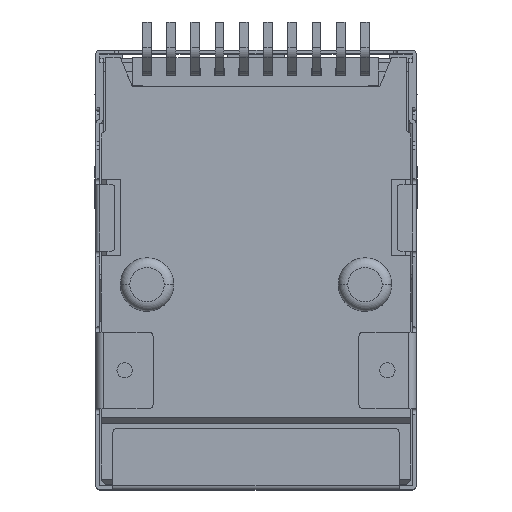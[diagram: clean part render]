
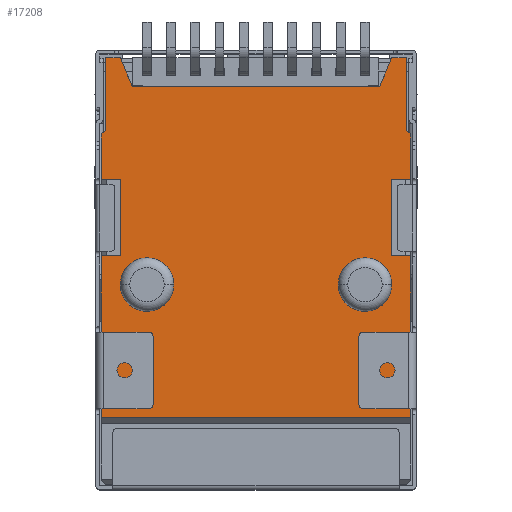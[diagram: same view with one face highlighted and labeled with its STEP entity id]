
A CAD part, top view. The second image highlights one B-rep face of the part: STEP entity #17208.
In plain terms, the highlighted planar face has unit normal (0, 0, 1).
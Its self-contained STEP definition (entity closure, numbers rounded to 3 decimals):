
#101=DIRECTION('',(-0.781,0.625,0.));
#102=VECTOR('',#101,0.32);
#103=CARTESIAN_POINT('',(7.875,18.4,-3.6));
#104=LINE('',#103,#102);
#105=DIRECTION('',(-0.781,-0.625,0.));
#106=VECTOR('',#105,0.32);
#107=CARTESIAN_POINT('',(-8.125,18.6,-3.6));
#108=LINE('',#107,#106);
#109=DIRECTION('',(0.,-1.,0.));
#110=VECTOR('',#109,3.8);
#111=CARTESIAN_POINT('',(-8.125,22.4,-3.6));
#112=LINE('',#111,#110);
#113=DIRECTION('',(-0.392,0.92,0.));
#114=VECTOR('',#113,1.631);
#115=CARTESIAN_POINT('',(-6.735,20.9,-3.6));
#116=LINE('',#115,#114);
#117=DIRECTION('',(-0.392,-0.92,0.));
#118=VECTOR('',#117,1.631);
#119=CARTESIAN_POINT('',(6.875,22.4,-3.6));
#120=LINE('',#119,#118);
#121=CARTESIAN_POINT('',(-5.965,10.5,-3.6));
#122=DIRECTION('',(0.,0.,-1.));
#123=DIRECTION('',(-1.,0.,0.));
#124=AXIS2_PLACEMENT_3D('',#121,#122,#123);
#126=CARTESIAN_POINT('',(-5.965,10.5,-3.6));
#127=DIRECTION('',(0.,0.,-1.));
#128=DIRECTION('',(1.,0.,0.));
#129=AXIS2_PLACEMENT_3D('',#126,#127,#128);
#131=CARTESIAN_POINT('',(5.465,10.5,-3.6));
#132=DIRECTION('',(0.,0.,-1.));
#133=DIRECTION('',(-1.,0.,0.));
#134=AXIS2_PLACEMENT_3D('',#131,#132,#133);
#136=CARTESIAN_POINT('',(5.465,10.5,-3.6));
#137=DIRECTION('',(0.,0.,-1.));
#138=DIRECTION('',(1.,0.,0.));
#139=AXIS2_PLACEMENT_3D('',#136,#137,#138);
#141=DIRECTION('',(0.,1.,0.));
#142=VECTOR('',#141,3.8);
#143=CARTESIAN_POINT('',(7.625,18.6,-3.6));
#144=LINE('',#143,#142);
#189=DIRECTION('',(0.,-1.,0.));
#190=VECTOR('',#189,2.4);
#191=CARTESIAN_POINT('',(7.875,18.4,-3.6));
#192=LINE('',#191,#190);
#205=DIRECTION('',(0.,-1.,0.));
#206=VECTOR('',#205,8.45);
#207=CARTESIAN_POINT('',(7.875,12.,-3.6));
#208=LINE('',#207,#206);
#221=DIRECTION('',(-1.,0.,0.));
#222=VECTOR('',#221,1.);
#223=CARTESIAN_POINT('',(7.875,12.,-3.6));
#224=LINE('',#223,#222);
#241=DIRECTION('',(0.,1.,0.));
#242=VECTOR('',#241,4.);
#243=CARTESIAN_POINT('',(6.875,12.,-3.6));
#244=LINE('',#243,#242);
#261=DIRECTION('',(-1.,0.,0.));
#262=VECTOR('',#261,1.);
#263=CARTESIAN_POINT('',(7.875,16.,-3.6));
#264=LINE('',#263,#262);
#297=DIRECTION('',(0.,1.,0.));
#298=VECTOR('',#297,8.45);
#299=CARTESIAN_POINT('',(-8.375,3.55,-3.6));
#300=LINE('',#299,#298);
#321=DIRECTION('',(0.,1.,0.));
#322=VECTOR('',#321,2.4);
#323=CARTESIAN_POINT('',(-8.375,16.,-3.6));
#324=LINE('',#323,#322);
#337=DIRECTION('',(-1.,0.,0.));
#338=VECTOR('',#337,1.);
#339=CARTESIAN_POINT('',(-7.375,16.,-3.6));
#340=LINE('',#339,#338);
#353=DIRECTION('',(0.,-1.,0.));
#354=VECTOR('',#353,4.);
#355=CARTESIAN_POINT('',(-7.375,16.,-3.6));
#356=LINE('',#355,#354);
#377=DIRECTION('',(-1.,0.,0.));
#378=VECTOR('',#377,1.);
#379=CARTESIAN_POINT('',(-7.375,12.,-3.6));
#380=LINE('',#379,#378);
#381=DIRECTION('',(-1.,0.,0.));
#382=VECTOR('',#381,16.25);
#383=CARTESIAN_POINT('',(7.875,3.55,-3.6));
#384=LINE('',#383,#382);
#401=DIRECTION('',(1.,0.,0.));
#402=VECTOR('',#401,0.75);
#403=CARTESIAN_POINT('',(-8.125,22.4,-3.6));
#404=LINE('',#403,#402);
#417=DIRECTION('',(1.,0.,0.));
#418=VECTOR('',#417,0.75);
#419=CARTESIAN_POINT('',(6.875,22.4,-3.6));
#420=LINE('',#419,#418);
#4803=DIRECTION('',(-1.,0.,0.));
#4804=VECTOR('',#4803,12.97);
#4805=CARTESIAN_POINT('',(6.235,20.9,-3.6));
#4806=LINE('',#4805,#4804);
#14541=CARTESIAN_POINT('',(-8.125,18.6,-3.6));
#14542=VERTEX_POINT('',#14541);
#14543=CARTESIAN_POINT('',(-8.125,22.4,-3.6));
#14544=VERTEX_POINT('',#14543);
#14545=CARTESIAN_POINT('',(-8.375,18.4,-3.6));
#14546=VERTEX_POINT('',#14545);
#14547=CARTESIAN_POINT('',(7.625,18.6,-3.6));
#14548=CARTESIAN_POINT('',(7.625,22.4,-3.6));
#14549=VERTEX_POINT('',#14547);
#14550=VERTEX_POINT('',#14548);
#14551=CARTESIAN_POINT('',(7.875,18.4,-3.6));
#14552=VERTEX_POINT('',#14551);
#14553=CARTESIAN_POINT('',(7.875,16.,-3.6));
#14554=VERTEX_POINT('',#14553);
#14555=CARTESIAN_POINT('',(6.875,16.,-3.6));
#14556=VERTEX_POINT('',#14555);
#14557=CARTESIAN_POINT('',(6.875,12.,-3.6));
#14558=VERTEX_POINT('',#14557);
#14559=CARTESIAN_POINT('',(7.875,12.,-3.6));
#14560=VERTEX_POINT('',#14559);
#14561=CARTESIAN_POINT('',(7.875,3.55,-3.6));
#14562=VERTEX_POINT('',#14561);
#14563=CARTESIAN_POINT('',(-8.375,3.55,-3.6));
#14564=VERTEX_POINT('',#14563);
#14565=CARTESIAN_POINT('',(-8.375,12.,-3.6));
#14566=VERTEX_POINT('',#14565);
#14567=CARTESIAN_POINT('',(-7.375,12.,-3.6));
#14568=VERTEX_POINT('',#14567);
#14569=CARTESIAN_POINT('',(-7.375,16.,-3.6));
#14570=VERTEX_POINT('',#14569);
#14571=CARTESIAN_POINT('',(-8.375,16.,-3.6));
#14572=VERTEX_POINT('',#14571);
#14573=CARTESIAN_POINT('',(-7.375,22.4,-3.6));
#14574=VERTEX_POINT('',#14573);
#14575=CARTESIAN_POINT('',(-6.735,20.9,-3.6));
#14576=VERTEX_POINT('',#14575);
#14577=CARTESIAN_POINT('',(6.235,20.9,-3.6));
#14578=VERTEX_POINT('',#14577);
#14579=CARTESIAN_POINT('',(6.875,22.4,-3.6));
#14580=VERTEX_POINT('',#14579);
#14581=CARTESIAN_POINT('',(-7.365,10.5,-3.6));
#14582=CARTESIAN_POINT('',(-4.565,10.5,-3.6));
#14583=VERTEX_POINT('',#14581);
#14584=VERTEX_POINT('',#14582);
#14585=CARTESIAN_POINT('',(4.065,10.5,-3.6));
#14586=CARTESIAN_POINT('',(6.865,10.5,-3.6));
#14587=VERTEX_POINT('',#14585);
#14588=VERTEX_POINT('',#14586);
#17151=CARTESIAN_POINT('',(-0.25,12.975,-3.6));
#17152=DIRECTION('',(0.,0.,1.));
#17153=DIRECTION('',(1.,0.,0.));
#17154=AXIS2_PLACEMENT_3D('',#17151,#17152,#17153);
#17155=PLANE('',#17154);
#17157=ORIENTED_EDGE('',*,*,#17156,.F.);
#17159=ORIENTED_EDGE('',*,*,#17158,.F.);
#17161=ORIENTED_EDGE('',*,*,#17160,.T.);
#17163=ORIENTED_EDGE('',*,*,#17162,.T.);
#17165=ORIENTED_EDGE('',*,*,#17164,.F.);
#17167=ORIENTED_EDGE('',*,*,#17166,.F.);
#17169=ORIENTED_EDGE('',*,*,#17168,.T.);
#17171=ORIENTED_EDGE('',*,*,#17170,.T.);
#17173=ORIENTED_EDGE('',*,*,#17172,.T.);
#17175=ORIENTED_EDGE('',*,*,#17174,.F.);
#17177=ORIENTED_EDGE('',*,*,#17176,.F.);
#17179=ORIENTED_EDGE('',*,*,#17178,.T.);
#17181=ORIENTED_EDGE('',*,*,#17180,.T.);
#17182=ORIENTED_EDGE('',*,*,#17143,.F.);
#17183=ORIENTED_EDGE('',*,*,#17112,.F.);
#17185=ORIENTED_EDGE('',*,*,#17184,.T.);
#17187=ORIENTED_EDGE('',*,*,#17186,.F.);
#17189=ORIENTED_EDGE('',*,*,#17188,.F.);
#17191=ORIENTED_EDGE('',*,*,#17190,.F.);
#17193=ORIENTED_EDGE('',*,*,#17192,.T.);
#17194=EDGE_LOOP('',(#17157,#17159,#17161,#17163,#17165,#17167,#17169,#17171,
#17173,#17175,#17177,#17179,#17181,#17182,#17183,#17185,#17187,#17189,#17191,
#17193));
#17195=FACE_OUTER_BOUND('',#17194,.F.);
#17197=ORIENTED_EDGE('',*,*,#17196,.F.);
#17199=ORIENTED_EDGE('',*,*,#17198,.F.);
#17200=EDGE_LOOP('',(#17197,#17199));
#17201=FACE_BOUND('',#17200,.F.);
#17203=ORIENTED_EDGE('',*,*,#17202,.F.);
#17205=ORIENTED_EDGE('',*,*,#17204,.F.);
#17206=EDGE_LOOP('',(#17203,#17205));
#17207=FACE_BOUND('',#17206,.F.);
#17208=ADVANCED_FACE('',(#17195,#17201,#17207),#17155,.T.);
#125=CIRCLE('',#124,1.4);
#130=CIRCLE('',#129,1.4);
#135=CIRCLE('',#134,1.4);
#140=CIRCLE('',#139,1.4);
#17112=EDGE_CURVE('',#14544,#14542,#112,.T.);
#17143=EDGE_CURVE('',#14542,#14546,#108,.T.);
#17156=EDGE_CURVE('',#14549,#14550,#144,.T.);
#17158=EDGE_CURVE('',#14552,#14549,#104,.T.);
#17160=EDGE_CURVE('',#14552,#14554,#192,.T.);
#17162=EDGE_CURVE('',#14554,#14556,#264,.T.);
#17164=EDGE_CURVE('',#14558,#14556,#244,.T.);
#17166=EDGE_CURVE('',#14560,#14558,#224,.T.);
#17168=EDGE_CURVE('',#14560,#14562,#208,.T.);
#17170=EDGE_CURVE('',#14562,#14564,#384,.T.);
#17172=EDGE_CURVE('',#14564,#14566,#300,.T.);
#17174=EDGE_CURVE('',#14568,#14566,#380,.T.);
#17176=EDGE_CURVE('',#14570,#14568,#356,.T.);
#17178=EDGE_CURVE('',#14570,#14572,#340,.T.);
#17180=EDGE_CURVE('',#14572,#14546,#324,.T.);
#17184=EDGE_CURVE('',#14544,#14574,#404,.T.);
#17186=EDGE_CURVE('',#14576,#14574,#116,.T.);
#17188=EDGE_CURVE('',#14578,#14576,#4806,.T.);
#17190=EDGE_CURVE('',#14580,#14578,#120,.T.);
#17192=EDGE_CURVE('',#14580,#14550,#420,.T.);
#17196=EDGE_CURVE('',#14583,#14584,#125,.T.);
#17198=EDGE_CURVE('',#14584,#14583,#130,.T.);
#17202=EDGE_CURVE('',#14587,#14588,#135,.T.);
#17204=EDGE_CURVE('',#14588,#14587,#140,.T.);
